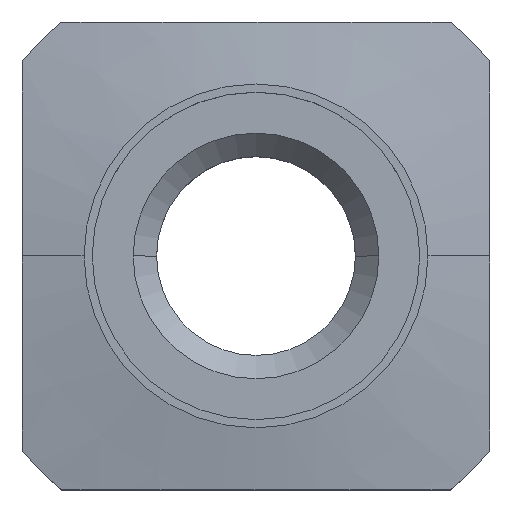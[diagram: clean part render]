
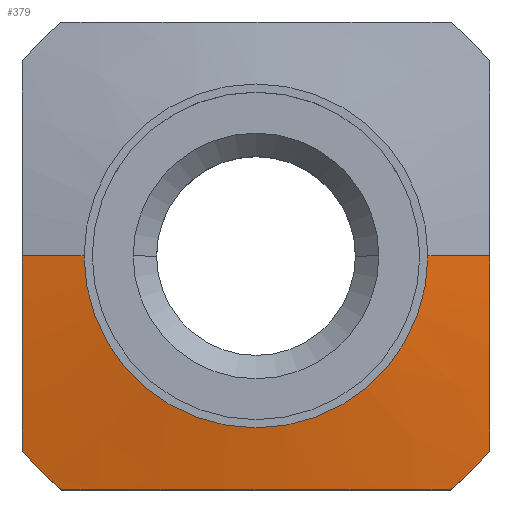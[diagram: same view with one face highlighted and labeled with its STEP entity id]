
A CAD part, top view. The second image highlights one B-rep face of the part: STEP entity #379.
In plain terms, the highlighted conical face has half-angle 80 degrees and reference radius 10.176 mm.
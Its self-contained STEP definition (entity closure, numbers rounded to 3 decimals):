
#11=DIRECTION('',(-0.985,0.,-0.174));
#12=VECTOR('',#11,2.689);
#13=CARTESIAN_POINT('',(-7.351,0.,4.5));
#14=LINE('',#13,#12);
#15=CARTESIAN_POINT('',(0.,0.,4.5));
#16=DIRECTION('',(0.,0.,-1.));
#17=DIRECTION('',(1.,0.,0.));
#18=AXIS2_PLACEMENT_3D('',#15,#16,#17);
#20=DIRECTION('',(0.985,0.,-0.174));
#21=VECTOR('',#20,2.689);
#22=CARTESIAN_POINT('',(7.351,0.,4.5));
#23=LINE('',#22,#21);
#24=CARTESIAN_POINT('',(10.,0.,4.033));
#42=CARTESIAN_POINT('',(10.,-8.307,3.504));
#43=CARTESIAN_POINT('',(10.,-7.797,3.561));
#44=CARTESIAN_POINT('',(10.,-6.805,3.667));
#45=CARTESIAN_POINT('',(10.,-5.421,3.794));
#46=CARTESIAN_POINT('',(10.,-4.07,3.897));
#47=CARTESIAN_POINT('',(10.,-2.727,3.973));
#48=CARTESIAN_POINT('',(10.,-1.37,4.022));
#49=CARTESIAN_POINT('',(10.,-0.458,4.033));
#50=CARTESIAN_POINT('',(10.,0.,4.033));
#65=CARTESIAN_POINT('',(-10.,0.,4.033));
#67=CARTESIAN_POINT('',(-10.,0.,4.033));
#68=CARTESIAN_POINT('',(-10.,-0.458,4.033));
#69=CARTESIAN_POINT('',(-10.,-1.37,4.022));
#70=CARTESIAN_POINT('',(-10.,-2.728,3.973));
#71=CARTESIAN_POINT('',(-10.,-4.072,3.897));
#72=CARTESIAN_POINT('',(-10.,-5.422,3.794));
#73=CARTESIAN_POINT('',(-10.,-6.806,3.667));
#74=CARTESIAN_POINT('',(-10.,-7.797,3.561));
#75=CARTESIAN_POINT('',(-10.,-8.307,3.504));
#85=CARTESIAN_POINT('',(0.,0.,3.504));
#86=DIRECTION('',(0.,0.,-1.));
#87=DIRECTION('',(0.769,-0.639,0.));
#88=AXIS2_PLACEMENT_3D('',#85,#86,#87);
#90=CARTESIAN_POINT('',(0.,0.,3.504));
#91=DIRECTION('',(0.,0.,-1.));
#92=DIRECTION('',(-0.639,-0.769,0.));
#93=AXIS2_PLACEMENT_3D('',#90,#91,#92);
#261=CARTESIAN_POINT('',(-8.307,-10.,3.504));
#262=CARTESIAN_POINT('',(-7.781,-10.,3.563));
#263=CARTESIAN_POINT('',(-6.764,-10.,3.671));
#264=CARTESIAN_POINT('',(-5.366,-10.,3.799));
#265=CARTESIAN_POINT('',(-4.014,-10.,3.9));
#266=CARTESIAN_POINT('',(-2.682,-10.,3.975));
#267=CARTESIAN_POINT('',(-1.344,-10.,4.022));
#268=CARTESIAN_POINT('',(0.001,-10.,4.038));
#269=CARTESIAN_POINT('',(1.346,-10.,4.022));
#270=CARTESIAN_POINT('',(2.683,-10.,3.975));
#271=CARTESIAN_POINT('',(4.016,-10.,3.9));
#272=CARTESIAN_POINT('',(5.367,-10.,3.799));
#273=CARTESIAN_POINT('',(6.764,-10.,3.671));
#274=CARTESIAN_POINT('',(7.781,-10.,3.563));
#275=CARTESIAN_POINT('',(8.307,-10.,3.504));
#289=CARTESIAN_POINT('',(7.351,0.,4.5));
#290=CARTESIAN_POINT('',(-7.351,0.,4.5));
#291=VERTEX_POINT('',#289);
#292=VERTEX_POINT('',#290);
#313=VERTEX_POINT('',#24);
#316=VERTEX_POINT('',#65);
#335=VERTEX_POINT('',#42);
#336=VERTEX_POINT('',#261);
#337=VERTEX_POINT('',#275);
#338=VERTEX_POINT('',#75);
#357=CARTESIAN_POINT('',(0.,0.,4.002));
#358=DIRECTION('',(0.,0.,-1.));
#359=DIRECTION('',(1.,0.,0.));
#360=AXIS2_PLACEMENT_3D('',#357,#358,#359);
#361=CONICAL_SURFACE('',#360,10.176,80.);
#363=ORIENTED_EDGE('',*,*,#362,.F.);
#365=ORIENTED_EDGE('',*,*,#364,.T.);
#367=ORIENTED_EDGE('',*,*,#366,.F.);
#369=ORIENTED_EDGE('',*,*,#368,.T.);
#371=ORIENTED_EDGE('',*,*,#370,.F.);
#373=ORIENTED_EDGE('',*,*,#372,.F.);
#374=ORIENTED_EDGE('',*,*,#344,.F.);
#376=ORIENTED_EDGE('',*,*,#375,.T.);
#377=EDGE_LOOP('',(#363,#365,#367,#369,#371,#373,#374,#376));
#378=FACE_OUTER_BOUND('',#377,.F.);
#379=ADVANCED_FACE('',(#378),#361,.T.);
#19=CIRCLE('',#18,7.351);
#51=B_SPLINE_CURVE_WITH_KNOTS('',3,(#42,#43,#44,#45,#46,#47,#48,#49,#50),
.UNSPECIFIED.,.F.,.F.,(4,1,1,1,1,1,4),(0.,0.167,0.333,
0.5,0.667,0.833,1.),.UNSPECIFIED.);
#76=B_SPLINE_CURVE_WITH_KNOTS('',3,(#67,#68,#69,#70,#71,#72,#73,#74,#75),
.UNSPECIFIED.,.F.,.F.,(4,1,1,1,1,1,4),(0.,0.167,0.333,
0.5,0.667,0.833,1.),.UNSPECIFIED.);
#89=CIRCLE('',#88,13.);
#94=CIRCLE('',#93,13.);
#276=B_SPLINE_CURVE_WITH_KNOTS('',3,(#261,#262,#263,#264,#265,#266,#267,#268,
#269,#270,#271,#272,#273,#274,#275),.UNSPECIFIED.,.F.,.F.,(4,1,1,1,1,1,1,1,1,1,
1,1,4),(0.,0.083,0.167,0.25,0.333,
0.417,0.5,0.583,0.667,0.75,
0.833,0.917,1.),.UNSPECIFIED.);
#344=EDGE_CURVE('',#291,#292,#19,.T.);
#362=EDGE_CURVE('',#335,#313,#51,.T.);
#364=EDGE_CURVE('',#335,#337,#89,.T.);
#366=EDGE_CURVE('',#336,#337,#276,.T.);
#368=EDGE_CURVE('',#336,#338,#94,.T.);
#370=EDGE_CURVE('',#316,#338,#76,.T.);
#372=EDGE_CURVE('',#292,#316,#14,.T.);
#375=EDGE_CURVE('',#291,#313,#23,.T.);
